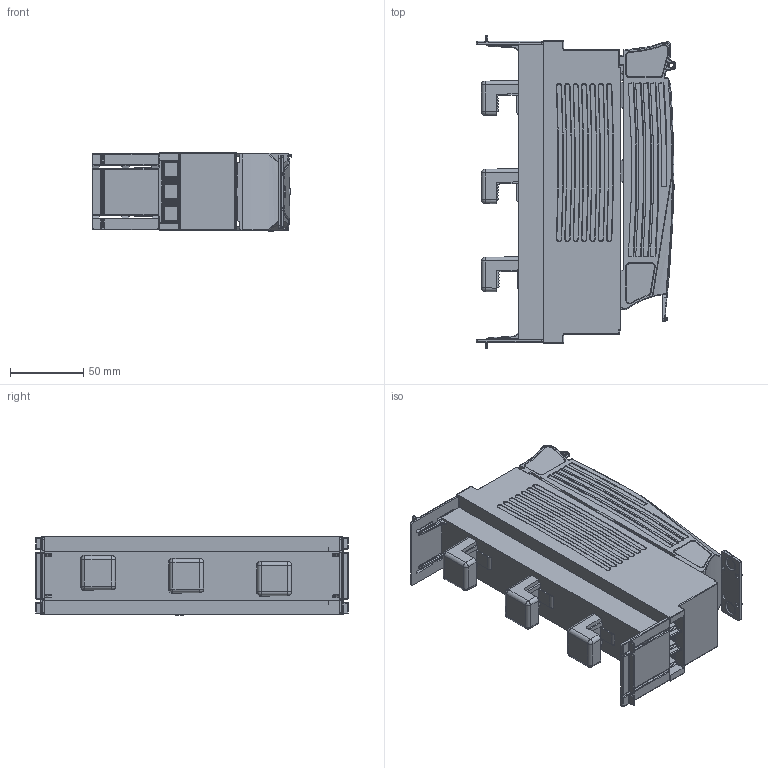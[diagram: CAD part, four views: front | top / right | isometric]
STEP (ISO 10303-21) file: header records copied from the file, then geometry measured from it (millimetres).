
FILE_DESCRIPTION(/* description */ (''),/* implementation_level */ '2;1');
FILE_NAME(/* name */ 'RBP 000 pro-SD - 63-823427-002.stp',/* time_stamp */ '2019-04-10T13:10:51+02:00',/* author */ (''),/* organization */ (''),/* preprocessor_version */ 'ST-DEVELOPER v16',/* originating_system */ 'SIEMENS PLM Software NX 10.0',/* authorisation */ '');
FILE_SCHEMA (('AUTOMOTIVE_DESIGN { 1 0 10303 214 3 1 1 1 }'));
Products named in the file (1): 710_288C7B2Fqs4d
Bounding box: 136.14 x 213 x 53.3 mm (x, y, z)
Volume: 925835 mm3; surface area: 135809.1 mm2
Topology: 1 solids, 2 shells, 2680 faces, 7053 edges, 4274 vertices
Faces by surface type: plane 911, cylinder 774, bspline 536, torus 183, sphere 125, cone 92, extrusion 41, revolution 18
Full cylindrical faces by diameter (mm): 5.795 x6, 12 x3
Entity records: 98223 total; most frequent: CARTESIAN_POINT 34929, ORIENTED_EDGE 13680, DIRECTION 11810, EDGE_CURVE 6840, AXIS2_PLACEMENT_3D 4316, VERTEX_POINT 4239, VECTOR 3160, LINE 3119
